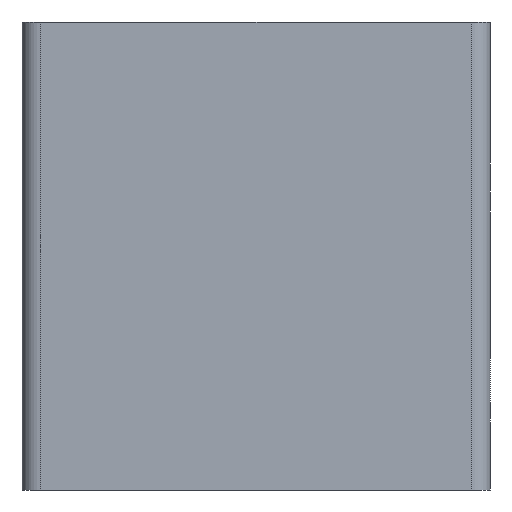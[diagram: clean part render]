
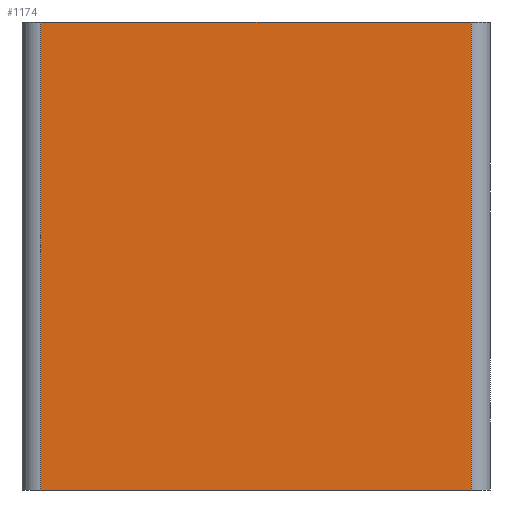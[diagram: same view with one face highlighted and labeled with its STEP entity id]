
A CAD part, left-side view. The second image highlights one B-rep face of the part: STEP entity #1174.
In plain terms, the highlighted planar face has unit normal (-1, 0, 0).
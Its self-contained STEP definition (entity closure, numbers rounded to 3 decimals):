
#17 = EDGE_LOOP ( 'NONE', ( #1053, #678, #620, #1096 ) ) ;
#27 = CARTESIAN_POINT ( 'NONE',  ( -125., 115., 125. ) ) ;
#42 = DIRECTION ( 'NONE',  ( 0., 1., 0. ) ) ;
#112 = EDGE_CURVE ( 'NONE', #1008, #187, #1237, .T. ) ;
#119 = CARTESIAN_POINT ( 'NONE',  ( -125., 115., 125. ) ) ;
#126 = LINE ( 'NONE', #119, #362 ) ;
#141 = EDGE_CURVE ( 'NONE', #853, #1008, #126, .T. ) ;
#187 = VERTEX_POINT ( 'NONE', #746 ) ;
#188 = EDGE_CURVE ( 'NONE', #853, #736, #833, .T. ) ;
#226 = VECTOR ( 'NONE', #1274, 1000. ) ;
#234 = CARTESIAN_POINT ( 'NONE',  ( -125., 115., 125. ) ) ;
#268 = DIRECTION ( 'NONE',  ( 0., -1., 0. ) ) ;
#347 = DIRECTION ( 'NONE',  ( 0., -1., 0. ) ) ;
#362 = VECTOR ( 'NONE', #1298, 1000. ) ;
#427 = AXIS2_PLACEMENT_3D ( 'NONE', #27, #462, #42 ) ;
#462 = DIRECTION ( 'NONE',  ( 1., 0., 0. ) ) ;
#518 = FACE_OUTER_BOUND ( 'NONE', #17, .T. ) ;
#620 = ORIENTED_EDGE ( 'NONE', *, *, #188, .F. ) ;
#678 = ORIENTED_EDGE ( 'NONE', *, *, #1067, .F. ) ;
#736 = VERTEX_POINT ( 'NONE', #1293 ) ;
#746 = CARTESIAN_POINT ( 'NONE',  ( -125., -115., -125. ) ) ;
#787 = VECTOR ( 'NONE', #268, 1000. ) ;
#833 = LINE ( 'NONE', #234, #787 ) ;
#848 = CARTESIAN_POINT ( 'NONE',  ( -125., -115., 125. ) ) ;
#853 = VERTEX_POINT ( 'NONE', #998 ) ;
#953 = VECTOR ( 'NONE', #347, 1000. ) ;
#982 = PLANE ( 'NONE',  #427 ) ;
#998 = CARTESIAN_POINT ( 'NONE',  ( -125., 115., 125. ) ) ;
#1008 = VERTEX_POINT ( 'NONE', #1017 ) ;
#1017 = CARTESIAN_POINT ( 'NONE',  ( -125., 115., -125. ) ) ;
#1053 = ORIENTED_EDGE ( 'NONE', *, *, #112, .T. ) ;
#1067 = EDGE_CURVE ( 'NONE', #736, #187, #1082, .T. ) ;
#1082 = LINE ( 'NONE', #848, #226 ) ;
#1084 = CARTESIAN_POINT ( 'NONE',  ( -125., 115., -125. ) ) ;
#1096 = ORIENTED_EDGE ( 'NONE', *, *, #141, .T. ) ;
#1174 = ADVANCED_FACE ( 'NONE', ( #518 ), #982, .F. ) ;
#1237 = LINE ( 'NONE', #1084, #953 ) ;
#1274 = DIRECTION ( 'NONE',  ( 0., 0., -1. ) ) ;
#1293 = CARTESIAN_POINT ( 'NONE',  ( -125., -115., 125. ) ) ;
#1298 = DIRECTION ( 'NONE',  ( 0., 0., -1. ) ) ;
